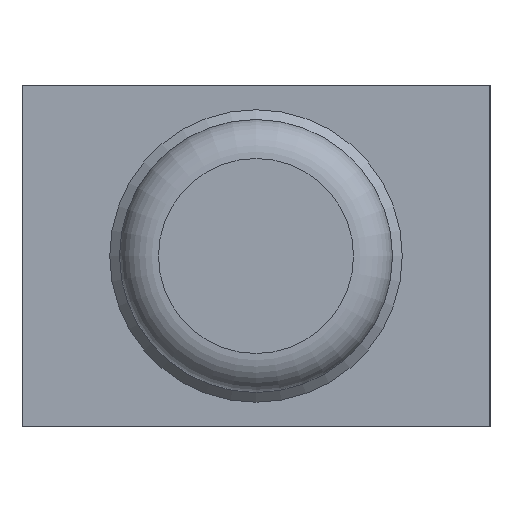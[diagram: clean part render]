
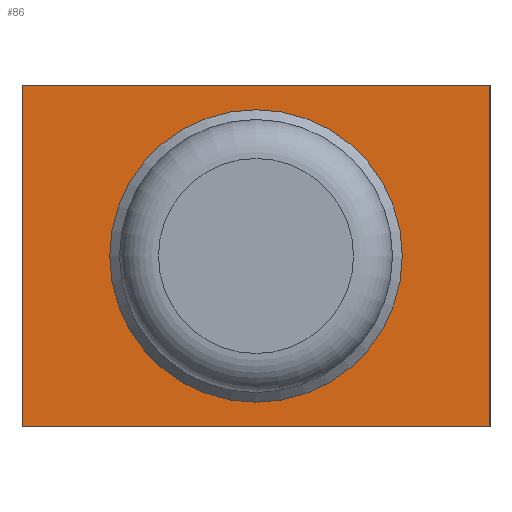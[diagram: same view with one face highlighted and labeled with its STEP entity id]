
A CAD part, left-side view. The second image highlights one B-rep face of the part: STEP entity #86.
In plain terms, the highlighted planar face has unit normal (-1, 0, 0).
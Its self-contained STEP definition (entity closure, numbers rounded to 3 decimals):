
#86=ADVANCED_FACE('',(#172,#173),#122,.T.);
#122=PLANE('',#516);
#135=LINE('',#727,#147);
#139=LINE('',#748,#151);
#143=LINE('',#763,#155);
#144=LINE('',#764,#156);
#147=VECTOR('',#578,1.);
#151=VECTOR('',#596,1.);
#155=VECTOR('',#608,1.);
#156=VECTOR('',#609,1.);
#172=FACE_BOUND('',#237,.T.);
#173=FACE_BOUND('',#238,.T.);
#237=EDGE_LOOP('',(#313));
#238=EDGE_LOOP('',(#314,#315,#316,#317));
#313=ORIENTED_EDGE('',*,*,#444,.T.);
#314=ORIENTED_EDGE('',*,*,#438,.F.);
#315=ORIENTED_EDGE('',*,*,#445,.F.);
#316=ORIENTED_EDGE('',*,*,#428,.T.);
#317=ORIENTED_EDGE('',*,*,#446,.T.);
#385=VERTEX_POINT('',#728);
#386=VERTEX_POINT('',#729);
#395=VERTEX_POINT('',#749);
#396=VERTEX_POINT('',#750);
#401=VERTEX_POINT('',#762);
#428=EDGE_CURVE('',#385,#386,#135,.T.);
#438=EDGE_CURVE('',#395,#396,#139,.T.);
#444=EDGE_CURVE('',#401,#401,#480,.T.);
#445=EDGE_CURVE('',#385,#395,#143,.T.);
#446=EDGE_CURVE('',#386,#396,#144,.T.);
#480=CIRCLE('',#515,15.);
#515=AXIS2_PLACEMENT_3D('',#761,#606,#607);
#516=AXIS2_PLACEMENT_3D('',#765,#610,#611);
#578=DIRECTION('',(0.,1.,0.));
#596=DIRECTION('',(0.,1.,0.));
#606=DIRECTION('',(1.,0.,0.));
#607=DIRECTION('',(0.,1.,0.));
#608=DIRECTION('',(0.,0.,-1.));
#609=DIRECTION('',(0.,0.,-1.));
#610=DIRECTION('',(-1.,0.,0.));
#611=DIRECTION('',(0.,0.,1.));
#727=CARTESIAN_POINT('',(-50.,-24.,35.));
#728=CARTESIAN_POINT('',(-50.,-24.,35.));
#729=CARTESIAN_POINT('',(-50.,24.,35.));
#748=CARTESIAN_POINT('',(-50.,-24.,0.));
#749=CARTESIAN_POINT('',(-50.,-24.,0.));
#750=CARTESIAN_POINT('',(-50.,24.,0.));
#761=CARTESIAN_POINT('',(-50.,0.,17.5));
#762=CARTESIAN_POINT('',(-50.,15.,17.5));
#763=CARTESIAN_POINT('',(-50.,-24.,35.));
#764=CARTESIAN_POINT('',(-50.,24.,35.));
#765=CARTESIAN_POINT('',(-50.,-24.,35.));
